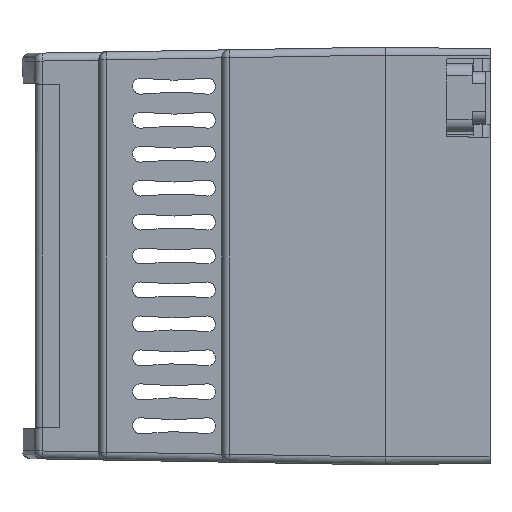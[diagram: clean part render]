
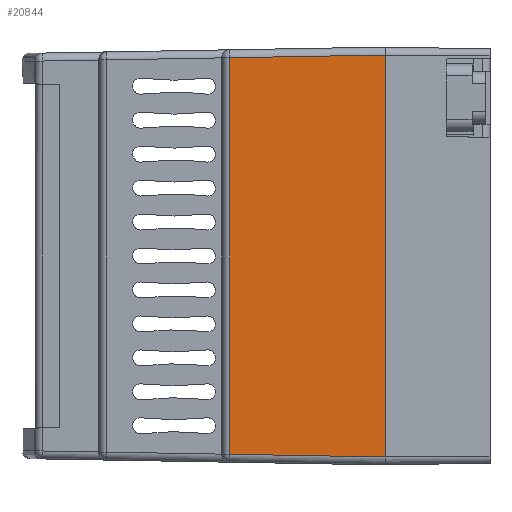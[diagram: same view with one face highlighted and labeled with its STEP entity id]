
A CAD part, left-side view. The second image highlights one B-rep face of the part: STEP entity #20844.
In plain terms, the highlighted planar face has unit normal (-1, 0.018, 0).
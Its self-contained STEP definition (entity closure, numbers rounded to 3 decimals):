
#827 = CARTESIAN_POINT ( 'NONE',  ( -45.25, -22.867, -25.25 ) ) ;
#1110 = CARTESIAN_POINT ( 'NONE',  ( -44.908, -3.233, -24.908 ) ) ;
#1227 = DIRECTION ( 'NONE',  ( -0.017, -1., -0.017 ) ) ;
#2012 = ORIENTED_EDGE ( 'NONE', *, *, #9703, .T. ) ;
#4649 = LINE ( 'NONE', #11115, #11800 ) ;
#5055 = EDGE_CURVE ( 'NONE', #21899, #10291, #13671, .T. ) ;
#6353 = VECTOR ( 'NONE', #25535, 1000. ) ;
#7200 = LINE ( 'NONE', #827, #8894 ) ;
#7644 = FACE_OUTER_BOUND ( 'NONE', #25347, .T. ) ;
#7875 = CARTESIAN_POINT ( 'NONE',  ( -45.25, -22.85, -25.25 ) ) ;
#8363 = EDGE_CURVE ( 'NONE', #21899, #15230, #25289, .T. ) ;
#8894 = VECTOR ( 'NONE', #1227, 1000. ) ;
#9703 = EDGE_CURVE ( 'NONE', #24313, #15230, #7200, .T. ) ;
#9826 = CARTESIAN_POINT ( 'NONE',  ( -44.891, -2.267, 24.891 ) ) ;
#10291 = VERTEX_POINT ( 'NONE', #10562 ) ;
#10562 = CARTESIAN_POINT ( 'NONE',  ( -44.908, -3.233, 24.908 ) ) ;
#11115 = CARTESIAN_POINT ( 'NONE',  ( -44.908, -3.233, 26.25 ) ) ;
#11350 = DIRECTION ( 'NONE',  ( -0.017, -1., 0. ) ) ;
#11800 = VECTOR ( 'NONE', #14956, 1000. ) ;
#12241 = VECTOR ( 'NONE', #17099, 1000. ) ;
#12374 = ORIENTED_EDGE ( 'NONE', *, *, #17777, .T. ) ;
#13667 = ORIENTED_EDGE ( 'NONE', *, *, #5055, .T. ) ;
#13671 = LINE ( 'NONE', #9826, #6353 ) ;
#14956 = DIRECTION ( 'NONE',  ( 0., 0., -1. ) ) ;
#15230 = VERTEX_POINT ( 'NONE', #7875 ) ;
#17099 = DIRECTION ( 'NONE',  ( 0., 0., -1. ) ) ;
#17777 = EDGE_CURVE ( 'NONE', #10291, #24313, #4649, .T. ) ;
#19272 = DIRECTION ( 'NONE',  ( -1., 0.017, 0. ) ) ;
#19554 = CARTESIAN_POINT ( 'NONE',  ( -46.416, -89.645, 26.25 ) ) ;
#20844 = ADVANCED_FACE ( 'NONE', ( #7644 ), #23250, .T. ) ;
#21660 = CARTESIAN_POINT ( 'NONE',  ( -45.25, -22.85, 25.25 ) ) ;
#21899 = VERTEX_POINT ( 'NONE', #21660 ) ;
#23250 = PLANE ( 'NONE',  #24787 ) ;
#23323 = CARTESIAN_POINT ( 'NONE',  ( -45.25, -22.85, 26.25 ) ) ;
#24313 = VERTEX_POINT ( 'NONE', #1110 ) ;
#24365 = ORIENTED_EDGE ( 'NONE', *, *, #8363, .F. ) ;
#24787 = AXIS2_PLACEMENT_3D ( 'NONE', #19554, #19272, #11350 ) ;
#25289 = LINE ( 'NONE', #23323, #12241 ) ;
#25347 = EDGE_LOOP ( 'NONE', ( #12374, #2012, #24365, #13667 ) ) ;
#25535 = DIRECTION ( 'NONE',  ( 0.017, 1., -0.017 ) ) ;
